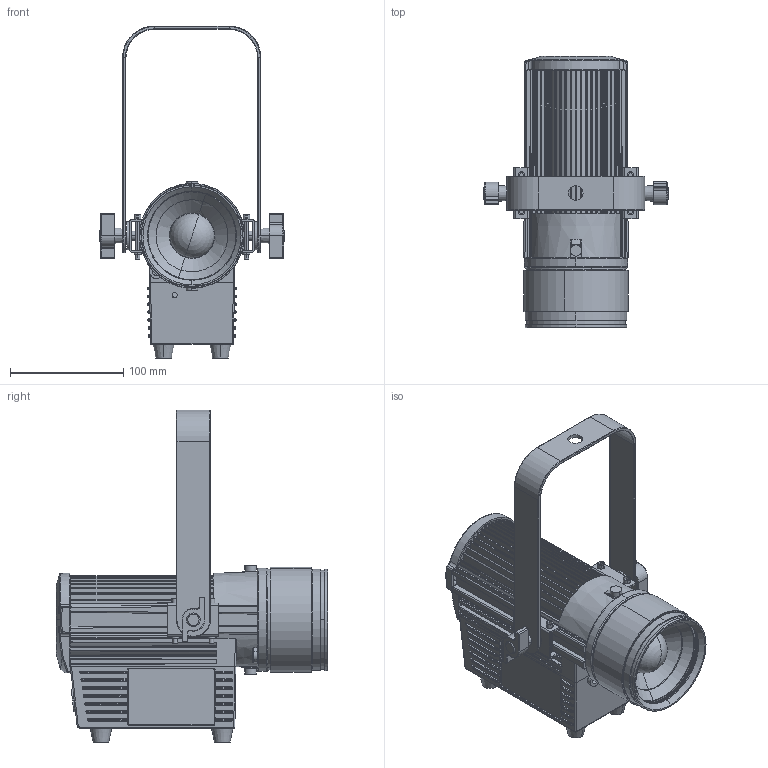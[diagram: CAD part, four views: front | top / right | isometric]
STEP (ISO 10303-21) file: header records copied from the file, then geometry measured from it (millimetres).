
FILE_DESCRIPTION((''),'2;1');
FILE_NAME('60W0001_ASM','2025-04-06T09:59:58',('ALY'),(''),'CREO PARAMETRIC BY PTC INC, 2022164','CREO PARAMETRIC BY PTC INC, 2022164','');
FILE_SCHEMA(('AUTOMOTIVE_DESIGN { 1 0 10303 214 1 1 1 1 }'));
Products named in the file (51): HOUGAI____A; BREP_1-1736; BREP_2-1737; BREP_3-1738; BREP_4-1739; CR___A_ASM; DIZUO-MINI____A; BREP_1-1742; BREP_2-1743; BREP_3-1744; BREP_4-1745; BREP_5-1746; QB______X______A_ASM; XIANSHI-MINI____ASM_A_ASM; BREP_2-1751; BREP_3-1752; BREP_4-1753; BREP_5-1754; B2____A_ASM; PC-02___A; KN2-___A; QQ__A; DIZUO-MINI____ASM_A_ASM; LV____A; OQUAN-426-275_____A; TT_____A; TT_____ASM_A_ASM; M4_____A; BREP_1-1764; BREP_2-1765; B6_____A_ASM; TOUJING-GY_____ASM_A_ASM; COB_A; 110_A; LIANJIEJIAN_A; T1___A; T2___A; T6___A; T4___A; T5___A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
Assembly tree (63 placements, depth 6):
  60W0001_ASM
    DOCUMENT_A_ASM
      HOUGAI____A
      CR___A_ASM  x2
        BREP_1-1736
        BREP_2-1737
        BREP_3-1738
        BREP_4-1739
      DIZUO-MINI____ASM_A_ASM
        DIZUO-MINI____A
        XIANSHI-MINI____ASM_A_ASM
          QB______X______A_ASM
            BREP_1-1742
            BREP_2-1743
            BREP_3-1744
            BREP_4-1745
            BREP_5-1746
        B2____A_ASM
          BREP_2-1751
          BREP_3-1752
          BREP_4-1753
          BREP_5-1754
        PC-02___A
        KN2-___A
        QQ__A
      LV____A
      OQUAN-426-275_____A  x2
      TT_____ASM_A_ASM
        TT_____A
      M4_____A  x2
      B6_____A_ASM
        BREP_1-1764
        BREP_2-1765
      TOUJING-GY_____ASM_A_ASM
      COB_A
      110_A  x4
      LIANJIEJIAN_A
      T1___A
      T2___A
      ASM0002___ASM_A_ASM
        T6___A
        ASM0001___ASM_A_ASM
          T4___A
          T5___A
          T3___A  x3
      M4-NLJ___A  x4
      SN-6____A  x2
      DP____A  x2
      DJ-MINI____A
      BREP_1-1733
      BREP_2-1735
Bounding box: 163.5 x 239.28 x 292.81 mm (x, y, z)
Volume: 931138.7 mm3; surface area: 548437.8 mm2
Topology: 55 solids, 55 shells, 2781 faces, 7558 edges, 4953 vertices
Faces by surface type: cylinder 1210, plane 977, torus 215, cone 214, bspline 151, sphere 10, extrusion 4
Entity records: 103333 total; most frequent: CARTESIAN_POINT 34198, ORIENTED_EDGE 14068, DIRECTION 13563, EDGE_CURVE 7034, AXIS2_PLACEMENT_3D 5337, VERTEX_POINT 4615, VECTOR 2889, LINE 2885
